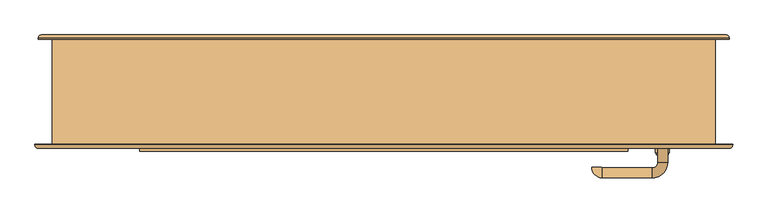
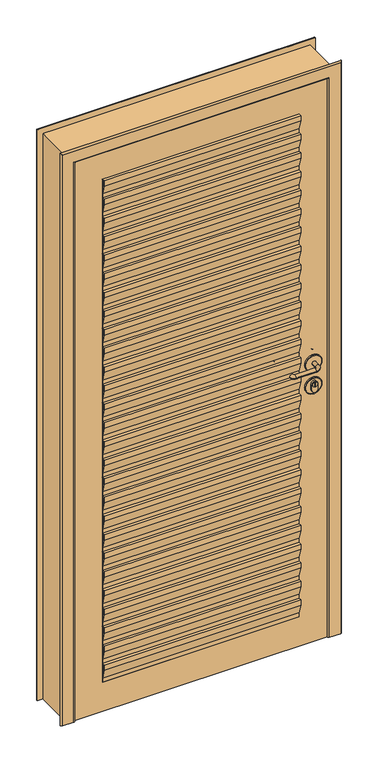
"""IFC4 building model written with IfcOpenShell, lengths in millimetres: door geometry, PORTA VENEZIANA PARAMÉTRICA : .VENEZIANA 90X210 2."""

from ifc_helpers import new_model, si_unit, point, frame, origin, place, context, project, spatial, polyline, circle_curve, ellipse_curve, trimmed, outline, extrude, faceted_brep, source, transform, mapped, element, save
from ifc_brep_helpers import plane_surface, cylinder_surface, revolved_surface, advanced_brep


def door_ed2cd844(model_context):
    return source(origin(), model_context, "Body", "SolidModel", [
        extrude(outline(polyline([(-75.0, 1945.0), (-85.0, 1980.0), (-85.0, 2000.0), (-74.0, 2000.0), (-74.0, 1999.0), (-84.0, 1999.0), (-84.0, 1980.1400549), (-74.0, 1945.1400549), (-74.0, 1930.0), (-75.0, 1930.0), (-75.0, 1945.0)])), frame((-350.0, 0.0, 0.0), z_axis=(1.0, 0.0, 0.0), x_axis=(0.0, 1.0, 0.0)), (0.0, 0.0, 1.0), 700.0),
        extrude(outline(polyline([(-75.0, 1875.0), (-85.0, 1910.0), (-85.0, 1930.0), (-74.0, 1930.0), (-74.0, 1929.0), (-84.0, 1929.0), (-84.0, 1910.1400549), (-74.0, 1875.1400549), (-74.0, 1860.0), (-75.0, 1860.0), (-75.0, 1875.0)])), frame((-350.0, 0.0, 0.0), z_axis=(1.0, 0.0, 0.0), x_axis=(0.0, 1.0, 0.0)), (0.0, 0.0, 1.0), 700.0),
        extrude(outline(polyline([(-75.0, 1805.0), (-85.0, 1840.0), (-85.0, 1860.0), (-74.0, 1860.0), (-74.0, 1859.0), (-84.0, 1859.0), (-84.0, 1840.1400549), (-74.0, 1805.1400549), (-74.0, 1790.0), (-75.0, 1790.0), (-75.0, 1805.0)])), frame((-350.0, 0.0, 0.0), z_axis=(1.0, 0.0, 0.0), x_axis=(0.0, 1.0, 0.0)), (0.0, 0.0, 1.0), 700.0),
        extrude(outline(polyline([(-75.0, 1735.0), (-85.0, 1770.0), (-85.0, 1790.0), (-74.0, 1790.0), (-74.0, 1789.0), (-84.0, 1789.0), (-84.0, 1770.1400549), (-74.0, 1735.1400549), (-74.0, 1720.0), (-75.0, 1720.0), (-75.0, 1735.0)])), frame((-350.0, 0.0, 0.0), z_axis=(1.0, 0.0, 0.0), x_axis=(0.0, 1.0, 0.0)), (0.0, 0.0, 1.0), 700.0),
        extrude(outline(polyline([(-75.0, 1665.0), (-85.0, 1700.0), (-85.0, 1720.0), (-74.0, 1720.0), (-74.0, 1719.0), (-84.0, 1719.0), (-84.0, 1700.1400549), (-74.0, 1665.1400549), (-74.0, 1650.0), (-75.0, 1650.0), (-75.0, 1665.0)])), frame((-350.0, 0.0, 0.0), z_axis=(1.0, 0.0, 0.0), x_axis=(0.0, 1.0, 0.0)), (0.0, 0.0, 1.0), 700.0),
        extrude(outline(polyline([(-75.0, 1595.0), (-85.0, 1630.0), (-85.0, 1650.0), (-74.0, 1650.0), (-74.0, 1649.0), (-84.0, 1649.0), (-84.0, 1630.1400549), (-74.0, 1595.1400549), (-74.0, 1580.0), (-75.0, 1580.0), (-75.0, 1595.0)])), frame((-350.0, 0.0, 0.0), z_axis=(1.0, 0.0, 0.0), x_axis=(0.0, 1.0, 0.0)), (0.0, 0.0, 1.0), 700.0),
        extrude(outline(polyline([(-75.0, 1525.0), (-85.0, 1560.0), (-85.0, 1580.0), (-74.0, 1580.0), (-74.0, 1579.0), (-84.0, 1579.0), (-84.0, 1560.1400549), (-74.0, 1525.1400549), (-74.0, 1510.0), (-75.0, 1510.0), (-75.0, 1525.0)])), frame((-350.0, 0.0, 0.0), z_axis=(1.0, 0.0, 0.0), x_axis=(0.0, 1.0, 0.0)), (0.0, 0.0, 1.0), 700.0),
        extrude(outline(polyline([(-75.0, 1455.0), (-85.0, 1490.0), (-85.0, 1510.0), (-74.0, 1510.0), (-74.0, 1509.0), (-84.0, 1509.0), (-84.0, 1490.1400549), (-74.0, 1455.1400549), (-74.0, 1440.0), (-75.0, 1440.0), (-75.0, 1455.0)])), frame((-350.0, 0.0, 0.0), z_axis=(1.0, 0.0, 0.0), x_axis=(0.0, 1.0, 0.0)), (0.0, 0.0, 1.0), 700.0),
        extrude(outline(polyline([(-75.0, 1385.0), (-85.0, 1420.0), (-85.0, 1440.0), (-74.0, 1440.0), (-74.0, 1439.0), (-84.0, 1439.0), (-84.0, 1420.1400549), (-74.0, 1385.1400549), (-74.0, 1370.0), (-75.0, 1370.0), (-75.0, 1385.0)])), frame((-350.0, 0.0, 0.0), z_axis=(1.0, 0.0, 0.0), x_axis=(0.0, 1.0, 0.0)), (0.0, 0.0, 1.0), 700.0),
        extrude(outline(polyline([(-75.0, 1315.0), (-85.0, 1350.0), (-85.0, 1370.0), (-74.0, 1370.0), (-74.0, 1369.0), (-84.0, 1369.0), (-84.0, 1350.1400549), (-74.0, 1315.1400549), (-74.0, 1300.0), (-75.0, 1300.0), (-75.0, 1315.0)])), frame((-350.0, 0.0, 0.0), z_axis=(1.0, 0.0, 0.0), x_axis=(0.0, 1.0, 0.0)), (0.0, 0.0, 1.0), 700.0),
        extrude(outline(polyline([(-75.0, 1245.0), (-85.0, 1280.0), (-85.0, 1300.0), (-74.0, 1300.0), (-74.0, 1299.0), (-84.0, 1299.0), (-84.0, 1280.1400549), (-74.0, 1245.1400549), (-74.0, 1230.0), (-75.0, 1230.0), (-75.0, 1245.0)])), frame((-350.0, 0.0, 0.0), z_axis=(1.0, 0.0, 0.0), x_axis=(0.0, 1.0, 0.0)), (0.0, 0.0, 1.0), 700.0),
        extrude(outline(polyline([(-75.0, 1175.0), (-85.0, 1210.0), (-85.0, 1230.0), (-74.0, 1230.0), (-74.0, 1229.0), (-84.0, 1229.0), (-84.0, 1210.1400549), (-74.0, 1175.1400549), (-74.0, 1160.0), (-75.0, 1160.0), (-75.0, 1175.0)])), frame((-350.0, 0.0, 0.0), z_axis=(1.0, 0.0, 0.0), x_axis=(0.0, 1.0, 0.0)), (0.0, 0.0, 1.0), 700.0),
        extrude(outline(polyline([(-75.0, 1105.0), (-85.0, 1140.0), (-85.0, 1160.0), (-74.0, 1160.0), (-74.0, 1159.0), (-84.0, 1159.0), (-84.0, 1140.1400549), (-74.0, 1105.1400549), (-74.0, 1090.0), (-75.0, 1090.0), (-75.0, 1105.0)])), frame((-350.0, 0.0, 0.0), z_axis=(1.0, 0.0, 0.0), x_axis=(0.0, 1.0, 0.0)), (0.0, 0.0, 1.0), 700.0),
        extrude(outline(polyline([(-75.0, 1035.0), (-85.0, 1070.0), (-85.0, 1090.0), (-74.0, 1090.0), (-74.0, 1089.0), (-84.0, 1089.0), (-84.0, 1070.1400549), (-74.0, 1035.1400549), (-74.0, 1020.0), (-75.0, 1020.0), (-75.0, 1035.0)])), frame((-350.0, 0.0, 0.0), z_axis=(1.0, 0.0, 0.0), x_axis=(0.0, 1.0, 0.0)), (0.0, 0.0, 1.0), 700.0),
        extrude(outline(polyline([(-75.0, 965.0), (-85.0, 1000.0), (-85.0, 1020.0), (-74.0, 1020.0), (-74.0, 1019.0), (-84.0, 1019.0), (-84.0, 1000.1400549), (-74.0, 965.1400549), (-74.0, 950.0), (-75.0, 950.0), (-75.0, 965.0)])), frame((-350.0, 0.0, 0.0), z_axis=(1.0, 0.0, 0.0), x_axis=(0.0, 1.0, 0.0)), (0.0, 0.0, 1.0), 700.0),
        extrude(outline(polyline([(-75.0, 895.0), (-85.0, 930.0), (-85.0, 950.0), (-74.0, 950.0), (-74.0, 949.0), (-84.0, 949.0), (-84.0, 930.1400549), (-74.0, 895.1400549), (-74.0, 880.0), (-75.0, 880.0), (-75.0, 895.0)])), frame((-350.0, 0.0, 0.0), z_axis=(1.0, 0.0, 0.0), x_axis=(0.0, 1.0, 0.0)), (0.0, 0.0, 1.0), 700.0),
        extrude(outline(polyline([(-75.0, 825.0), (-85.0, 860.0), (-85.0, 880.0), (-74.0, 880.0), (-74.0, 879.0), (-84.0, 879.0), (-84.0, 860.1400549), (-74.0, 825.1400549), (-74.0, 810.0), (-75.0, 810.0), (-75.0, 825.0)])), frame((-350.0, 0.0, 0.0), z_axis=(1.0, 0.0, 0.0), x_axis=(0.0, 1.0, 0.0)), (0.0, 0.0, 1.0), 700.0),
        extrude(outline(polyline([(-75.0, 755.0), (-85.0, 790.0), (-85.0, 810.0), (-74.0, 810.0), (-74.0, 809.0), (-84.0, 809.0), (-84.0, 790.1400549), (-74.0, 755.1400549), (-74.0, 740.0), (-75.0, 740.0), (-75.0, 755.0)])), frame((-350.0, 0.0, 0.0), z_axis=(1.0, 0.0, 0.0), x_axis=(0.0, 1.0, 0.0)), (0.0, 0.0, 1.0), 700.0),
        extrude(outline(polyline([(-75.0, 685.0), (-85.0, 720.0), (-85.0, 740.0), (-74.0, 740.0), (-74.0, 739.0), (-84.0, 739.0), (-84.0, 720.1400549), (-74.0, 685.1400549), (-74.0, 670.0), (-75.0, 670.0), (-75.0, 685.0)])), frame((-350.0, 0.0, 0.0), z_axis=(1.0, 0.0, 0.0), x_axis=(0.0, 1.0, 0.0)), (0.0, 0.0, 1.0), 700.0),
        extrude(outline(polyline([(-75.0, 615.0), (-85.0, 650.0), (-85.0, 670.0), (-74.0, 670.0), (-74.0, 669.0), (-84.0, 669.0), (-84.0, 650.1400549), (-74.0, 615.1400549), (-74.0, 600.0), (-75.0, 600.0), (-75.0, 615.0)])), frame((-350.0, 0.0, 0.0), z_axis=(1.0, 0.0, 0.0), x_axis=(0.0, 1.0, 0.0)), (0.0, 0.0, 1.0), 700.0),
        extrude(outline(polyline([(-75.0, 545.0), (-85.0, 580.0), (-85.0, 600.0), (-74.0, 600.0), (-74.0, 599.0), (-84.0, 599.0), (-84.0, 580.1400549), (-74.0, 545.1400549), (-74.0, 530.0), (-75.0, 530.0), (-75.0, 545.0)])), frame((-350.0, 0.0, 0.0), z_axis=(1.0, 0.0, 0.0), x_axis=(0.0, 1.0, 0.0)), (0.0, 0.0, 1.0), 700.0),
        extrude(outline(polyline([(-75.0, 475.0), (-85.0, 510.0), (-85.0, 530.0), (-74.0, 530.0), (-74.0, 529.0), (-84.0, 529.0), (-84.0, 510.1400549), (-74.0, 475.1400549), (-74.0, 460.0), (-75.0, 460.0), (-75.0, 475.0)])), frame((-350.0, 0.0, 0.0), z_axis=(1.0, 0.0, 0.0), x_axis=(0.0, 1.0, 0.0)), (0.0, 0.0, 1.0), 700.0),
        extrude(outline(polyline([(-75.0, 405.0), (-85.0, 440.0), (-85.0, 460.0), (-74.0, 460.0), (-74.0, 459.0), (-84.0, 459.0), (-84.0, 440.1400549), (-74.0, 405.1400549), (-74.0, 390.0), (-75.0, 390.0), (-75.0, 405.0)])), frame((-350.0, 0.0, 0.0), z_axis=(1.0, 0.0, 0.0), x_axis=(0.0, 1.0, 0.0)), (0.0, 0.0, 1.0), 700.0),
        extrude(outline(polyline([(-75.0, 335.0), (-85.0, 370.0), (-85.0, 390.0), (-74.0, 390.0), (-74.0, 389.0), (-84.0, 389.0), (-84.0, 370.1400549), (-74.0, 335.1400549), (-74.0, 320.0), (-75.0, 320.0), (-75.0, 335.0)])), frame((-350.0, 0.0, 0.0), z_axis=(1.0, 0.0, 0.0), x_axis=(0.0, 1.0, 0.0)), (0.0, 0.0, 1.0), 700.0),
        extrude(outline(polyline([(-75.0, 265.0), (-85.0, 300.0), (-85.0, 320.0), (-74.0, 320.0), (-74.0, 319.0), (-84.0, 319.0), (-84.0, 300.1400549), (-74.0, 265.1400549), (-74.0, 250.0), (-75.0, 250.0), (-75.0, 265.0)])), frame((-350.0, 0.0, 0.0), z_axis=(1.0, 0.0, 0.0), x_axis=(0.0, 1.0, 0.0)), (0.0, 0.0, 1.0), 700.0),
        extrude(outline(polyline([(-75.0, 195.0), (-85.0, 230.0), (-85.0, 250.0), (-74.0, 250.0), (-74.0, 249.0), (-84.0, 249.0), (-84.0, 230.1400549), (-74.0, 195.1400549), (-74.0, 180.0), (-75.0, 180.0), (-75.0, 195.0)])), frame((-350.0, 0.0, 0.0), z_axis=(1.0, 0.0, 0.0), x_axis=(0.0, 1.0, 0.0)), (0.0, 0.0, 1.0), 700.0),
        extrude(outline(polyline([(-75.0, 125.0), (-85.0, 160.0), (-85.0, 180.0), (-74.0, 180.0), (-74.0, 179.0), (-84.0, 179.0), (-84.0, 160.1400549), (-74.0, 125.1400549), (-74.0, 110.0), (-75.0, 110.0), (-75.0, 125.0)])), frame((-350.0, 0.0, 0.0), z_axis=(1.0, 0.0, 0.0), x_axis=(0.0, 1.0, 0.0)), (0.0, 0.0, 1.0), 700.0),
        advanced_brep(
        [(393.0, -19.0, 1050.0), (393.0, -39.0, 1050.0), (407.0, -39.0, 1050.0), (407.0, -19.0, 1050.0), (385.0, 3.0, 1050.0), (385.0, -11.0, 1050.0), (313.0, 3.0, 1050.0), (313.0, -11.0, 1050.0), (312.0, -12.0, 1050.0), (298.0, -12.0, 1050.0), (371.0897225, -39.0, 1049.3126953), (427.0897225, -39.0, 1049.3126953), (429.0897225, -45.0, 1049.3126953), (369.0897225, -45.0, 1049.3126953), (429.0897225, -41.0, 1049.3126953), (369.0897225, -41.0, 1049.3126953)],
        [
            (0, 1),
            (1, 2, circle_curve(frame((400.0, -39.0, 1050.0), z_axis=(0.0, 1.0, 0.0), x_axis=(1.0, 0.0, 0.0)), 7.0)),
            (2, 3),
            (3, 0, circle_curve(frame((400.0, -19.0, 1050.0), z_axis=(0.0, -1.0, 0.0), x_axis=(1.0, 0.0, 0.0)), 7.0)),
            (2, 1, circle_curve(frame((400.0, -39.0, 1050.0), z_axis=(0.0, 1.0, 0.0), x_axis=(1.0, 0.0, 0.0)), 7.0)),
            (0, 3, circle_curve(frame((400.0, -19.0, 1050.0), z_axis=(0.0, -1.0, 0.0), x_axis=(1.0, 0.0, 0.0)), 7.0)),
            (3, 4, circle_curve(frame((385.0, -19.0, 1050.0), z_axis=(0.0, 0.0, 1.0), x_axis=(1.0, 0.0, 0.0)), 22.0)),
            (4, 5, circle_curve(frame((385.0, -4.0, 1050.0), z_axis=(1.0, 0.0, 0.0), x_axis=(0.0, 1.0, 0.0)), 7.0)),
            (5, 0, circle_curve(frame((385.0, -19.0, 1050.0), z_axis=(0.0, 0.0, -1.0), x_axis=(1.0, 0.0, 0.0)), 8.0)),
            (5, 4, circle_curve(frame((385.0, -4.0, 1050.0), z_axis=(1.0, 0.0, 0.0), x_axis=(0.0, 1.0, 0.0)), 7.0)),
            (4, 6),
            (6, 7, circle_curve(frame((313.0, -4.0, 1050.0), z_axis=(1.0, 0.0, 0.0), x_axis=(0.0, 1.0, 0.0)), 7.0)),
            (7, 5),
            (7, 6, circle_curve(frame((313.0, -4.0, 1050.0), z_axis=(1.0, 0.0, 0.0), x_axis=(0.0, 1.0, 0.0)), 7.0)),
            (8, 9, circle_curve(frame((305.0, -12.0, 1050.0), z_axis=(0.0, -1.0, 0.0), x_axis=(-1.0, 0.0, 0.0)), 7.0)),
            (9, 8, circle_curve(frame((305.0, -12.0, 1050.0), z_axis=(0.0, -1.0, 0.0), x_axis=(-1.0, 0.0, 0.0)), 7.0)),
            (6, 9, circle_curve(frame((313.0, -12.0, 1050.0), z_axis=(0.0, 0.0, 1.0), x_axis=(0.0, 1.0, 0.0)), 15.0)),
            (8, 7, circle_curve(frame((313.0, -12.0, 1050.0), z_axis=(0.0, 0.0, -1.0), x_axis=(0.0, 1.0, 0.0)), 1.0)),
            (10, 11, circle_curve(frame((399.0897225, -39.0, 1049.3126953), z_axis=(0.0, 1.0, 0.0), x_axis=(-1.0, 0.0, 0.0)), 28.0)),
            (11, 10, circle_curve(frame((399.0897225, -39.0, 1049.3126953), z_axis=(0.0, 1.0, 0.0), x_axis=(1.0, 0.0, 0.0)), 28.0)),
            (12, 13, circle_curve(frame((399.0897225, -45.0, 1049.3126953), z_axis=(0.0, -1.0, 0.0), x_axis=(-1.0, 0.0, 0.0)), 30.0)),
            (13, 12, circle_curve(frame((399.0897225, -45.0, 1049.3126953), z_axis=(0.0, -1.0, 0.0), x_axis=(-1.0, 0.0, 0.0)), 30.0)),
            (12, 14),
            (14, 15, circle_curve(frame((399.0897225, -41.0, 1049.3126953), z_axis=(0.0, -1.0, 0.0), x_axis=(-1.0, 0.0, 0.0)), 30.0)),
            (15, 13),
            (15, 14, circle_curve(frame((399.0897225, -41.0, 1049.3126953), z_axis=(0.0, -1.0, 0.0), x_axis=(-1.0, 0.0, 0.0)), 30.0)),
            (11, 14, circle_curve(frame((427.0897225, -41.0, 1049.3126953), z_axis=(0.0, 0.0, -1.0), x_axis=(1.0, 0.0, 0.0)), 2.0)),
            (15, 10, circle_curve(frame((371.0897225, -41.0, 1049.3126953), z_axis=(0.0, 0.0, -1.0), x_axis=(-1.0, 0.0, 0.0)), 2.0)),
        ],
        [
            cylinder_surface(frame((400.0, -45.0, 1050.0), z_axis=(0.0, -1.0, 0.0), x_axis=(1.0, 0.0, 0.0)), 7.0),
            revolved_surface(trimmed(ellipse_curve(frame((400.0, -19.0, 1050.0), z_axis=(0.0, 1.0, 0.0), x_axis=(1.0, 0.0, 0.0)), 7.0, 7.0), [point((393.0, -19.0, 1050.0))], [point((407.0, -19.0, 1050.0))], True, "CARTESIAN"), (385.0, -19.0, 1050.0), (0.0, 0.0, -1.0)),
            revolved_surface(trimmed(ellipse_curve(frame((400.0, -19.0, 1050.0), z_axis=(0.0, 1.0, 0.0), x_axis=(1.0, 0.0, 0.0)), 7.0, 7.0), [point((407.0, -19.0, 1050.0))], [point((393.0, -19.0, 1050.0))], True, "CARTESIAN"), (385.0, -19.0, 1050.0), (0.0, 0.0, -1.0)),
            cylinder_surface(frame((385.0, -4.0, 1050.0), z_axis=(1.0, 0.0, 0.0), x_axis=(0.0, 1.0, 0.0)), 7.0),
            plane_surface(frame((305.0, -12.0, 1050.0), z_axis=(0.0, -1.0, 0.0), x_axis=(0.0, 0.0, 1.0))),
            revolved_surface(trimmed(ellipse_curve(frame((313.0, -4.0, 1050.0), z_axis=(-1.0, 0.0, 0.0), x_axis=(0.0, 1.0, 0.0)), 7.0, 7.0), [point((313.0, -11.0, 1050.0))], [point((313.0, 3.0, 1050.0))], True, "CARTESIAN"), (313.0, -12.0, 1050.0), (0.0, 0.0, -1.0)),
            revolved_surface(trimmed(ellipse_curve(frame((313.0, -4.0, 1050.0), z_axis=(-1.0, 0.0, 0.0), x_axis=(0.0, 1.0, 0.0)), 7.0, 7.0), [point((313.0, 3.0, 1050.0))], [point((313.0, -11.0, 1050.0))], True, "CARTESIAN"), (313.0, -12.0, 1050.0), (0.0, 0.0, -1.0)),
            plane_surface(frame((369.0897225, -39.0, 1049.3126953), z_axis=(0.0, 1.0, 0.0), x_axis=(0.0, 0.0, -1.0))),
            plane_surface(frame((369.0897225, -45.0, 1049.3126953), z_axis=(0.0, -1.0, 0.0), x_axis=(0.0, 0.0, 1.0))),
            cylinder_surface(frame((399.0897225, -45.0, 1049.3126953), z_axis=(0.0, 1.0, 0.0), x_axis=(-1.0, 0.0, 0.0)), 30.0),
            revolved_surface(trimmed(ellipse_curve(frame((427.0897225, -41.0, 1049.3126953), z_axis=(0.0, 0.0, -1.0), x_axis=(1.0, 0.0, 0.0)), 2.0, 2.0), [point((427.0897225, -39.0, 1049.3126953))], [point((429.0897225, -41.0, 1049.3126953))], True, "CARTESIAN"), (399.0897225, -45.0, 1049.3126953), (0.0, -1.0, 0.0)),
            revolved_surface(trimmed(ellipse_curve(frame((371.0897225, -41.0, 1049.3126953), z_axis=(0.0, 0.0, 1.0), x_axis=(-1.0, 0.0, 0.0)), 2.0, 2.0), [point((371.0897225, -39.0, 1049.3126953))], [point((369.0897225, -41.0, 1049.3126953))], True, "CARTESIAN"), (399.0897225, -45.0, 1049.3126953), (0.0, -1.0, 0.0)),
        ],
        [
            (0, [[1, 2, 3, 4]]),
            (0, [[-3, 5, -1, 6]]),
            (1, [[7, 8, 9, -4]]),
            (2, [[-9, 10, -7, -6]]),
            (3, [[11, 12, 13, -8]]),
            (3, [[-13, 14, -11, -10]]),
            (4, [[15, 16]]),
            (5, [[17, -15, 18, -12]]),
            (6, [[-18, -16, -17, -14]]),
            (7, [[19, 20], [-5, -2]]),
            (8, [[21, 22]]),
            (9, [[23, 24, 25, -21]]),
            (9, [[-25, 26, -23, -22]]),
            (10, [[-20, 27, -26, 28]]),
            (11, [[-24, -27, -19, -28]]),
        ],
    ),
        advanced_brep(
        [(371.0897225, -39.0, 964.9710055), (427.0897225, -39.0, 964.9710055), (389.0897225, -39.0, 974.9710055), (389.0897225, -39.0, 954.9710055), (409.0897225, -39.0, 954.9710055), (409.0897225, -39.0, 974.9710055), (398.0897225, -39.0, 980.9710055), (400.0897225, -39.0, 980.9710055), (400.0897225, -39.0, 968.9710055), (398.0897225, -39.0, 968.9710055), (429.0897225, -45.0, 964.9710055), (369.0897225, -45.0, 964.9710055), (369.0897225, -41.0, 964.9710055), (429.0897225, -41.0, 964.9710055), (409.0897225, -32.5, 974.9710055), (409.0897225, -32.5, 954.9710055), (389.0897225, -32.5, 954.9710055), (389.0897225, -32.5, 974.9710055), (390.5897225, -32.5, 974.9710055), (407.5897225, -32.5, 974.9710055), (398.0897225, -30.0, 968.9710055), (398.0897225, -30.0, 980.9710055), (400.0897225, -30.0, 980.9710055), (400.0897225, -30.0, 968.9710055), (407.5897225, -30.0, 974.9710055), (390.5897225, -30.0, 974.9710055)],
        [
            (0, 1, circle_curve(frame((399.0897225, -39.0, 964.9710055), z_axis=(0.0, 1.0, 0.0), x_axis=(-1.0, 0.0, 0.0)), 28.0)),
            (1, 0, circle_curve(frame((399.0897225, -39.0, 964.9710055), z_axis=(0.0, 1.0, 0.0), x_axis=(1.0, 0.0, 0.0)), 28.0)),
            (2, 3),
            (3, 4, circle_curve(frame((399.0897225, -39.0, 954.9710055), z_axis=(0.0, -1.0, 0.0), x_axis=(-1.0, 0.0, 0.0)), 10.0)),
            (4, 5),
            (5, 2, circle_curve(frame((399.0897225, -39.0, 974.9710055), z_axis=(0.0, -1.0, 0.0), x_axis=(-1.0, 0.0, 0.0)), 10.0)),
            (6, 7),
            (7, 8),
            (8, 9),
            (9, 6),
            (10, 11, circle_curve(frame((399.0897225, -45.0, 964.9710055), z_axis=(0.0, -1.0, 0.0), x_axis=(-1.0, 0.0, 0.0)), 30.0)),
            (11, 10, circle_curve(frame((399.0897225, -45.0, 964.9710055), z_axis=(0.0, -1.0, 0.0), x_axis=(-1.0, 0.0, 0.0)), 30.0)),
            (11, 12),
            (12, 13, circle_curve(frame((399.0897225, -41.0, 964.9710055), z_axis=(0.0, -1.0, 0.0), x_axis=(-1.0, 0.0, 0.0)), 30.0)),
            (13, 10),
            (13, 12, circle_curve(frame((399.0897225, -41.0, 964.9710055), z_axis=(0.0, -1.0, 0.0), x_axis=(-1.0, 0.0, 0.0)), 30.0)),
            (1, 13, circle_curve(frame((427.0897225, -41.0, 964.9710055), z_axis=(0.0, 0.0, -1.0), x_axis=(1.0, 0.0, 0.0)), 2.0)),
            (12, 0, circle_curve(frame((371.0897225, -41.0, 964.9710055), z_axis=(0.0, 0.0, -1.0), x_axis=(-1.0, 0.0, 0.0)), 2.0)),
            (14, 15),
            (15, 16, circle_curve(frame((399.0897225, -32.5, 954.9710055), z_axis=(0.0, 1.0, 0.0), x_axis=(-1.0, 0.0, 0.0)), 10.0)),
            (16, 17),
            (17, 14, circle_curve(frame((399.0897225, -32.5, 974.9710055), z_axis=(0.0, 1.0, 0.0), x_axis=(-1.0, 0.0, 0.0)), 10.0)),
            (18, 19, circle_curve(frame((399.0897225, -32.5, 974.9710055), z_axis=(0.0, -1.0, 0.0), x_axis=(-1.0, 0.0, 0.0)), 8.5)),
            (19, 18, circle_curve(frame((399.0897225, -32.5, 974.9710055), z_axis=(0.0, -1.0, 0.0), x_axis=(-1.0, 0.0, 0.0)), 8.5)),
            (9, 20),
            (20, 21),
            (21, 6),
            (21, 22),
            (22, 7),
            (22, 23),
            (23, 8),
            (23, 20),
            (17, 2),
            (5, 14),
            (16, 3),
            (15, 4),
            (24, 25, circle_curve(frame((399.0897225, -30.0, 974.9710055), z_axis=(0.0, 1.0, 0.0), x_axis=(-1.0, 0.0, 0.0)), 8.5)),
            (25, 24, circle_curve(frame((399.0897225, -30.0, 974.9710055), z_axis=(0.0, 1.0, 0.0), x_axis=(-1.0, 0.0, 0.0)), 8.5)),
            (25, 18),
            (19, 24),
        ],
        [
            plane_surface(frame((369.0897225, -39.0, 964.9710055), z_axis=(0.0, 1.0, 0.0), x_axis=(0.0, 0.0, -1.0))),
            plane_surface(frame((369.0897225, -45.0, 964.9710055), z_axis=(0.0, -1.0, 0.0), x_axis=(0.0, 0.0, 1.0))),
            cylinder_surface(frame((399.0897225, -45.0, 964.9710055), z_axis=(0.0, 1.0, 0.0), x_axis=(-1.0, 0.0, 0.0)), 30.0),
            revolved_surface(trimmed(ellipse_curve(frame((427.0897225, -41.0, 964.9710055), z_axis=(0.0, 0.0, -1.0), x_axis=(1.0, 0.0, 0.0)), 2.0, 2.0), [point((427.0897225, -39.0, 964.9710055))], [point((429.0897225, -41.0, 964.9710055))], True, "CARTESIAN"), (399.0897225, -45.0, 964.9710055), (0.0, -1.0, 0.0)),
            revolved_surface(trimmed(ellipse_curve(frame((371.0897225, -41.0, 964.9710055), z_axis=(0.0, 0.0, 1.0), x_axis=(-1.0, 0.0, 0.0)), 2.0, 2.0), [point((371.0897225, -39.0, 964.9710055))], [point((369.0897225, -41.0, 964.9710055))], True, "CARTESIAN"), (399.0897225, -45.0, 964.9710055), (0.0, -1.0, 0.0)),
            plane_surface(frame((398.0897225, -32.5, 980.9710055), z_axis=(0.0, 1.0, 0.0), x_axis=(0.0, 0.0, 1.0))),
            plane_surface(frame((398.0897225, -32.5, 968.9710055), z_axis=(1.0, 0.0, 0.0), x_axis=(0.0, -1.0, 0.0))),
            plane_surface(frame((398.0897225, -32.5, 980.9710055), z_axis=(0.0, 0.0, -1.0), x_axis=(0.0, -1.0, 0.0))),
            plane_surface(frame((400.0897225, -32.5, 980.9710055), z_axis=(-1.0, 0.0, 0.0), x_axis=(0.0, -1.0, 0.0))),
            plane_surface(frame((400.0897225, -32.5, 968.9710055), z_axis=(0.0, 0.0, 1.0), x_axis=(0.0, -1.0, 0.0))),
            cylinder_surface(frame((399.0897225, -45.0, 974.9710055), z_axis=(0.0, 1.0, 0.0), x_axis=(-1.0, 0.0, 0.0)), 10.0),
            plane_surface(frame((389.0897225, -32.5, 974.9710055), z_axis=(-1.0, 0.0, 0.0), x_axis=(0.0, -1.0, 0.0))),
            cylinder_surface(frame((399.0897225, -45.0, 954.9710055), z_axis=(0.0, 1.0, 0.0), x_axis=(-1.0, 0.0, 0.0)), 10.0),
            plane_surface(frame((409.0897225, -32.5, 954.9710055), z_axis=(1.0, 0.0, 0.0), x_axis=(0.0, -1.0, 0.0))),
            plane_surface(frame((398.0897225, -30.0, 980.9710055), z_axis=(0.0, 1.0, 0.0), x_axis=(0.0, 0.0, 1.0))),
            cylinder_surface(frame((399.0897225, -45.0, 974.9710055), z_axis=(0.0, 1.0, 0.0), x_axis=(-1.0, 0.0, 0.0)), 8.5),
        ],
        [
            (0, [[1, 2], [3, 4, 5, 6]]),
            (0, [[7, 8, 9, 10]]),
            (1, [[11, 12]]),
            (2, [[13, 14, 15, -12]]),
            (2, [[-15, 16, -13, -11]]),
            (3, [[-2, 17, -14, 18]]),
            (4, [[-16, -17, -1, -18]]),
            (5, [[19, 20, 21, 22], [23, 24]]),
            (6, [[25, 26, 27, -10]]),
            (7, [[28, 29, -7, -27]]),
            (8, [[30, 31, -8, -29]]),
            (9, [[-9, -31, 32, -25]]),
            (10, [[33, -6, 34, -22]]),
            (11, [[35, -3, -33, -21]]),
            (12, [[36, -4, -35, -20]]),
            (13, [[-34, -5, -36, -19]]),
            (14, [[37, 38], [-32, -30, -28, -26]]),
            (15, [[39, -24, 40, -38]]),
            (15, [[-40, -23, -39, -37]]),
        ],
    ),
        advanced_brep(
        [(393.0, -101.0, 1050.0), (407.0, -101.0, 1050.0), (407.0, -81.0, 1050.0), (393.0, -81.0, 1050.0), (385.0, -109.0, 1050.0), (385.0, -123.0, 1050.0), (313.0, -109.0, 1050.0), (313.0, -123.0, 1050.0), (312.0, -108.0, 1050.0), (298.0, -108.0, 1050.0), (371.0897225, -81.0, 1049.3126953), (427.0897225, -81.0, 1049.3126953), (429.0897225, -75.0, 1049.3126953), (369.0897225, -75.0, 1049.3126953), (369.0897225, -79.0, 1049.3126953), (429.0897225, -79.0, 1049.3126953)],
        [
            (0, 1, circle_curve(frame((400.0, -101.0, 1050.0), z_axis=(0.0, 1.0, 0.0), x_axis=(1.0, 0.0, 0.0)), 7.0)),
            (1, 2),
            (2, 3, circle_curve(frame((400.0, -81.0, 1050.0), z_axis=(0.0, -1.0, 0.0), x_axis=(1.0, 0.0, 0.0)), 7.0)),
            (3, 0),
            (1, 0, circle_curve(frame((400.0, -101.0, 1050.0), z_axis=(0.0, 1.0, 0.0), x_axis=(1.0, 0.0, 0.0)), 7.0)),
            (3, 2, circle_curve(frame((400.0, -81.0, 1050.0), z_axis=(0.0, -1.0, 0.0), x_axis=(1.0, 0.0, 0.0)), 7.0)),
            (0, 4, circle_curve(frame((385.0, -101.0, 1050.0), z_axis=(0.0, 0.0, -1.0), x_axis=(1.0, 0.0, 0.0)), 8.0)),
            (4, 5, circle_curve(frame((385.0, -116.0, 1050.0), z_axis=(1.0, 0.0, 0.0), x_axis=(0.0, -1.0, 0.0)), 7.0)),
            (5, 1, circle_curve(frame((385.0, -101.0, 1050.0), z_axis=(0.0, 0.0, 1.0), x_axis=(1.0, 0.0, 0.0)), 22.0)),
            (5, 4, circle_curve(frame((385.0, -116.0, 1050.0), z_axis=(1.0, 0.0, 0.0), x_axis=(0.0, -1.0, 0.0)), 7.0)),
            (4, 6),
            (6, 7, circle_curve(frame((313.0, -116.0, 1050.0), z_axis=(1.0, 0.0, 0.0), x_axis=(0.0, -1.0, 0.0)), 7.0)),
            (7, 5),
            (7, 6, circle_curve(frame((313.0, -116.0, 1050.0), z_axis=(1.0, 0.0, 0.0), x_axis=(0.0, -1.0, 0.0)), 7.0)),
            (8, 9, circle_curve(frame((305.0, -108.0, 1050.0), z_axis=(0.0, 1.0, 0.0), x_axis=(-1.0, 0.0, 0.0)), 7.0)),
            (9, 8, circle_curve(frame((305.0, -108.0, 1050.0), z_axis=(0.0, 1.0, 0.0), x_axis=(-1.0, 0.0, 0.0)), 7.0)),
            (6, 8, circle_curve(frame((313.0, -108.0, 1050.0), z_axis=(0.0, 0.0, -1.0), x_axis=(0.0, -1.0, 0.0)), 1.0)),
            (9, 7, circle_curve(frame((313.0, -108.0, 1050.0), z_axis=(0.0, 0.0, 1.0), x_axis=(0.0, -1.0, 0.0)), 15.0)),
            (10, 11, circle_curve(frame((399.0897225, -81.0, 1049.3126953), z_axis=(0.0, -1.0, 0.0), x_axis=(1.0, 0.0, 0.0)), 28.0)),
            (11, 10, circle_curve(frame((399.0897225, -81.0, 1049.3126953), z_axis=(0.0, -1.0, 0.0), x_axis=(-1.0, 0.0, 0.0)), 28.0)),
            (12, 13, circle_curve(frame((399.0897225, -75.0, 1049.3126953), z_axis=(0.0, 1.0, 0.0), x_axis=(-1.0, 0.0, 0.0)), 30.0)),
            (13, 12, circle_curve(frame((399.0897225, -75.0, 1049.3126953), z_axis=(0.0, 1.0, 0.0), x_axis=(-1.0, 0.0, 0.0)), 30.0)),
            (13, 14),
            (14, 15, circle_curve(frame((399.0897225, -79.0, 1049.3126953), z_axis=(0.0, 1.0, 0.0), x_axis=(-1.0, 0.0, 0.0)), 30.0)),
            (15, 12),
            (15, 14, circle_curve(frame((399.0897225, -79.0, 1049.3126953), z_axis=(0.0, 1.0, 0.0), x_axis=(-1.0, 0.0, 0.0)), 30.0)),
            (10, 14, circle_curve(frame((371.0897225, -79.0, 1049.3126953), z_axis=(0.0, 0.0, -1.0), x_axis=(-1.0, 0.0, 0.0)), 2.0)),
            (15, 11, circle_curve(frame((427.0897225, -79.0, 1049.3126953), z_axis=(0.0, 0.0, -1.0), x_axis=(1.0, 0.0, 0.0)), 2.0)),
        ],
        [
            cylinder_surface(frame((400.0, -75.0, 1050.0), z_axis=(0.0, 1.0, 0.0), x_axis=(1.0, 0.0, 0.0)), 7.0),
            revolved_surface(trimmed(ellipse_curve(frame((400.0, -101.0, 1050.0), z_axis=(0.0, 1.0, 0.0), x_axis=(1.0, 0.0, 0.0)), 7.0, 7.0), [point((393.0, -101.0, 1050.0))], [point((407.0, -101.0, 1050.0))], True, "CARTESIAN"), (385.0, -101.0, 1050.0), (0.0, 0.0, -1.0)),
            revolved_surface(trimmed(ellipse_curve(frame((400.0, -101.0, 1050.0), z_axis=(0.0, 1.0, 0.0), x_axis=(1.0, 0.0, 0.0)), 7.0, 7.0), [point((407.0, -101.0, 1050.0))], [point((393.0, -101.0, 1050.0))], True, "CARTESIAN"), (385.0, -101.0, 1050.0), (0.0, 0.0, -1.0)),
            cylinder_surface(frame((385.0, -116.0, 1050.0), z_axis=(1.0, 0.0, 0.0), x_axis=(0.0, -1.0, 0.0)), 7.0),
            plane_surface(frame((305.0, -108.0, 1050.0), z_axis=(0.0, 1.0, 0.0), x_axis=(0.0, 0.0, 1.0))),
            revolved_surface(trimmed(ellipse_curve(frame((313.0, -116.0, 1050.0), z_axis=(1.0, 0.0, 0.0), x_axis=(0.0, -1.0, 0.0)), 7.0, 7.0), [point((313.0, -109.0, 1050.0))], [point((313.0, -123.0, 1050.0))], True, "CARTESIAN"), (313.0, -108.0, 1050.0), (0.0, 0.0, -1.0)),
            revolved_surface(trimmed(ellipse_curve(frame((313.0, -116.0, 1050.0), z_axis=(1.0, 0.0, 0.0), x_axis=(0.0, -1.0, 0.0)), 7.0, 7.0), [point((313.0, -123.0, 1050.0))], [point((313.0, -109.0, 1050.0))], True, "CARTESIAN"), (313.0, -108.0, 1050.0), (0.0, 0.0, -1.0)),
            plane_surface(frame((369.0897225, -81.0, 1049.3126953), z_axis=(0.0, -1.0, 0.0), x_axis=(0.0, 0.0, -1.0))),
            plane_surface(frame((369.0897225, -75.0, 1049.3126953), z_axis=(0.0, 1.0, 0.0), x_axis=(0.0, 0.0, 1.0))),
            cylinder_surface(frame((399.0897225, -75.0, 1049.3126953), z_axis=(0.0, -1.0, 0.0), x_axis=(-1.0, 0.0, 0.0)), 30.0),
            revolved_surface(trimmed(ellipse_curve(frame((427.0897225, -79.0, 1049.3126953), z_axis=(0.0, 0.0, 1.0), x_axis=(1.0, 0.0, 0.0)), 2.0, 2.0), [point((427.0897225, -81.0, 1049.3126953))], [point((429.0897225, -79.0, 1049.3126953))], True, "CARTESIAN"), (399.0897225, -75.0, 1049.3126953), (0.0, 1.0, 0.0)),
            revolved_surface(trimmed(ellipse_curve(frame((371.0897225, -79.0, 1049.3126953), z_axis=(0.0, 0.0, -1.0), x_axis=(-1.0, 0.0, 0.0)), 2.0, 2.0), [point((371.0897225, -81.0, 1049.3126953))], [point((369.0897225, -79.0, 1049.3126953))], True, "CARTESIAN"), (399.0897225, -75.0, 1049.3126953), (0.0, 1.0, 0.0)),
        ],
        [
            (0, [[1, 2, 3, 4]]),
            (0, [[5, -4, 6, -2]]),
            (1, [[-1, 7, 8, 9]]),
            (2, [[-5, -9, 10, -7]]),
            (3, [[-8, 11, 12, 13]]),
            (3, [[-10, -13, 14, -11]]),
            (4, [[15, 16]]),
            (5, [[-12, 17, -16, 18]]),
            (6, [[-14, -18, -15, -17]]),
            (7, [[19, 20], [-3, -6]]),
            (8, [[21, 22]]),
            (9, [[-22, 23, 24, 25]]),
            (9, [[-21, -25, 26, -23]]),
            (10, [[27, -26, 28, -19]]),
            (11, [[-27, -20, -28, -24]]),
        ],
    ),
        advanced_brep(
        [(371.0897225, -81.0, 964.9710055), (427.0897225, -81.0, 964.9710055), (389.0897225, -81.0, 974.9710055), (409.0897225, -81.0, 974.9710055), (409.0897225, -81.0, 954.9710055), (389.0897225, -81.0, 954.9710055), (398.0897225, -81.0, 980.9710055), (398.0897225, -81.0, 968.9710055), (400.0897225, -81.0, 968.9710055), (400.0897225, -81.0, 980.9710055), (429.0897225, -75.0, 964.9710055), (369.0897225, -75.0, 964.9710055), (429.0897225, -79.0, 964.9710055), (369.0897225, -79.0, 964.9710055), (409.0897225, -87.5, 974.9710055), (389.0897225, -87.5, 974.9710055), (389.0897225, -87.5, 954.9710055), (409.0897225, -87.5, 954.9710055), (390.5897225, -87.5, 974.9710055), (407.5897225, -87.5, 974.9710055), (398.0897225, -90.0, 980.9710055), (398.0897225, -90.0, 968.9710055), (400.0897225, -90.0, 980.9710055), (400.0897225, -90.0, 968.9710055), (407.5897225, -90.0, 974.9710055), (390.5897225, -90.0, 974.9710055)],
        [
            (0, 1, circle_curve(frame((399.0897225, -81.0, 964.9710055), z_axis=(0.0, -1.0, 0.0), x_axis=(1.0, 0.0, 0.0)), 28.0)),
            (1, 0, circle_curve(frame((399.0897225, -81.0, 964.9710055), z_axis=(0.0, -1.0, 0.0), x_axis=(-1.0, 0.0, 0.0)), 28.0)),
            (2, 3, circle_curve(frame((399.0897225, -81.0, 974.9710055), z_axis=(0.0, 1.0, 0.0), x_axis=(-1.0, 0.0, 0.0)), 10.0)),
            (3, 4),
            (4, 5, circle_curve(frame((399.0897225, -81.0, 954.9710055), z_axis=(0.0, 1.0, 0.0), x_axis=(-1.0, 0.0, 0.0)), 10.0)),
            (5, 2),
            (6, 7),
            (7, 8),
            (8, 9),
            (9, 6),
            (10, 11, circle_curve(frame((399.0897225, -75.0, 964.9710055), z_axis=(0.0, 1.0, 0.0), x_axis=(-1.0, 0.0, 0.0)), 30.0)),
            (11, 10, circle_curve(frame((399.0897225, -75.0, 964.9710055), z_axis=(0.0, 1.0, 0.0), x_axis=(-1.0, 0.0, 0.0)), 30.0)),
            (10, 12),
            (12, 13, circle_curve(frame((399.0897225, -79.0, 964.9710055), z_axis=(0.0, 1.0, 0.0), x_axis=(-1.0, 0.0, 0.0)), 30.0)),
            (13, 11),
            (13, 12, circle_curve(frame((399.0897225, -79.0, 964.9710055), z_axis=(0.0, 1.0, 0.0), x_axis=(-1.0, 0.0, 0.0)), 30.0)),
            (0, 13, circle_curve(frame((371.0897225, -79.0, 964.9710055), z_axis=(0.0, 0.0, -1.0), x_axis=(-1.0, 0.0, 0.0)), 2.0)),
            (12, 1, circle_curve(frame((427.0897225, -79.0, 964.9710055), z_axis=(0.0, 0.0, -1.0), x_axis=(1.0, 0.0, 0.0)), 2.0)),
            (14, 15, circle_curve(frame((399.0897225, -87.5, 974.9710055), z_axis=(0.0, -1.0, 0.0), x_axis=(-1.0, 0.0, 0.0)), 10.0)),
            (15, 16),
            (16, 17, circle_curve(frame((399.0897225, -87.5, 954.9710055), z_axis=(0.0, -1.0, 0.0), x_axis=(-1.0, 0.0, 0.0)), 10.0)),
            (17, 14),
            (18, 19, circle_curve(frame((399.0897225, -87.5, 974.9710055), z_axis=(0.0, 1.0, 0.0), x_axis=(-1.0, 0.0, 0.0)), 8.5)),
            (19, 18, circle_curve(frame((399.0897225, -87.5, 974.9710055), z_axis=(0.0, 1.0, 0.0), x_axis=(-1.0, 0.0, 0.0)), 8.5)),
            (6, 20),
            (20, 21),
            (21, 7),
            (9, 22),
            (22, 20),
            (8, 23),
            (23, 22),
            (21, 23),
            (14, 3),
            (2, 15),
            (5, 16),
            (4, 17),
            (24, 25, circle_curve(frame((399.0897225, -90.0, 974.9710055), z_axis=(0.0, -1.0, 0.0), x_axis=(-1.0, 0.0, 0.0)), 8.5)),
            (25, 24, circle_curve(frame((399.0897225, -90.0, 974.9710055), z_axis=(0.0, -1.0, 0.0), x_axis=(-1.0, 0.0, 0.0)), 8.5)),
            (24, 19),
            (18, 25),
        ],
        [
            plane_surface(frame((369.0897225, -81.0, 964.9710055), z_axis=(0.0, -1.0, 0.0), x_axis=(0.0, 0.0, -1.0))),
            plane_surface(frame((369.0897225, -75.0, 964.9710055), z_axis=(0.0, 1.0, 0.0), x_axis=(0.0, 0.0, 1.0))),
            cylinder_surface(frame((399.0897225, -75.0, 964.9710055), z_axis=(0.0, -1.0, 0.0), x_axis=(-1.0, 0.0, 0.0)), 30.0),
            revolved_surface(trimmed(ellipse_curve(frame((427.0897225, -79.0, 964.9710055), z_axis=(0.0, 0.0, 1.0), x_axis=(1.0, 0.0, 0.0)), 2.0, 2.0), [point((427.0897225, -81.0, 964.9710055))], [point((429.0897225, -79.0, 964.9710055))], True, "CARTESIAN"), (399.0897225, -75.0, 964.9710055), (0.0, 1.0, 0.0)),
            revolved_surface(trimmed(ellipse_curve(frame((371.0897225, -79.0, 964.9710055), z_axis=(0.0, 0.0, -1.0), x_axis=(-1.0, 0.0, 0.0)), 2.0, 2.0), [point((371.0897225, -81.0, 964.9710055))], [point((369.0897225, -79.0, 964.9710055))], True, "CARTESIAN"), (399.0897225, -75.0, 964.9710055), (0.0, 1.0, 0.0)),
            plane_surface(frame((398.0897225, -87.5, 980.9710055), z_axis=(0.0, -1.0, 0.0), x_axis=(0.0, 0.0, 1.0))),
            plane_surface(frame((398.0897225, -87.5, 968.9710055), z_axis=(1.0, 0.0, 0.0), x_axis=(0.0, 1.0, 0.0))),
            plane_surface(frame((398.0897225, -87.5, 980.9710055), z_axis=(0.0, 0.0, -1.0), x_axis=(0.0, 1.0, 0.0))),
            plane_surface(frame((400.0897225, -87.5, 980.9710055), z_axis=(-1.0, 0.0, 0.0), x_axis=(0.0, 1.0, 0.0))),
            plane_surface(frame((400.0897225, -87.5, 968.9710055), z_axis=(0.0, 0.0, 1.0), x_axis=(0.0, 1.0, 0.0))),
            cylinder_surface(frame((399.0897225, -75.0, 974.9710055), z_axis=(0.0, -1.0, 0.0), x_axis=(-1.0, 0.0, 0.0)), 10.0),
            plane_surface(frame((389.0897225, -87.5, 974.9710055), z_axis=(-1.0, 0.0, 0.0), x_axis=(0.0, 1.0, 0.0))),
            cylinder_surface(frame((399.0897225, -75.0, 954.9710055), z_axis=(0.0, -1.0, 0.0), x_axis=(-1.0, 0.0, 0.0)), 10.0),
            plane_surface(frame((409.0897225, -87.5, 954.9710055), z_axis=(1.0, 0.0, 0.0), x_axis=(0.0, 1.0, 0.0))),
            plane_surface(frame((398.0897225, -90.0, 980.9710055), z_axis=(0.0, -1.0, 0.0), x_axis=(0.0, 0.0, 1.0))),
            cylinder_surface(frame((399.0897225, -75.0, 974.9710055), z_axis=(0.0, -1.0, 0.0), x_axis=(-1.0, 0.0, 0.0)), 8.5),
        ],
        [
            (0, [[1, 2], [3, 4, 5, 6]]),
            (0, [[7, 8, 9, 10]]),
            (1, [[11, 12]]),
            (2, [[-11, 13, 14, 15]]),
            (2, [[-12, -15, 16, -13]]),
            (3, [[17, -14, 18, -1]]),
            (4, [[-17, -2, -18, -16]]),
            (5, [[19, 20, 21, 22], [23, 24]]),
            (6, [[-7, 25, 26, 27]]),
            (7, [[-25, -10, 28, 29]]),
            (8, [[-28, -9, 30, 31]]),
            (9, [[-27, 32, -30, -8]]),
            (10, [[-19, 33, -3, 34]]),
            (11, [[-20, -34, -6, 35]]),
            (12, [[-21, -35, -5, 36]]),
            (13, [[-22, -36, -4, -33]]),
            (14, [[37, 38], [-26, -29, -31, -32]]),
            (15, [[-37, 39, -23, 40]]),
            (15, [[-38, -40, -24, -39]]),
        ],
    ),
        advanced_brep(
        [(-445.0, 75.0, 0.0), (-495.0, 75.0, 0.0), (-495.0, 76.3965095, 0.0), (-490.0, 81.3965095, 0.0), (-450.0, 81.3965095, 0.0), (-445.0, 76.3965095, 0.0), (-445.0, 75.0, 2095.0), (445.0, 75.0, 2095.0), (445.0, 75.0, 0.0), (495.0, 75.0, 0.0), (495.0, 75.0, 2145.0), (-495.0, 75.0, 2145.0), (-495.0, 76.3965095, 2145.0), (-490.0, 81.3965095, 2140.0), (490.0, 81.3965095, 2140.0), (490.0, 81.3965095, 0.0), (450.0, 81.3965095, 0.0), (450.0, 81.3965095, 2100.0), (-450.0, 81.3965095, 2100.0), (-445.0, 76.3965095, 2095.0), (445.0, 76.3965095, 0.0), (495.0, 76.3965095, 0.0), (445.0, 76.3965095, 2095.0), (495.0, 76.3965095, 2145.0)],
        [
            (0, 1),
            (1, 2),
            (2, 3, circle_curve(frame((-490.0, 76.3965095, 0.0), z_axis=(0.0, 0.0, -1.0), x_axis=(0.0, 1.0, 0.0)), 5.0)),
            (3, 4),
            (4, 5, circle_curve(frame((-450.0, 76.3965095, 0.0), z_axis=(0.0, 0.0, -1.0), x_axis=(0.0, 1.0, 0.0)), 5.0)),
            (5, 0),
            (0, 6),
            (6, 7),
            (7, 8),
            (8, 9),
            (9, 10),
            (10, 11),
            (11, 1),
            (11, 12),
            (12, 2),
            (12, 13, ellipse_curve(frame((-490.0, 76.3965095, 2140.0), z_axis=(-0.7071067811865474, 0.0, -0.7071067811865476), x_axis=(0.7071067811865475, 0.0, -0.7071067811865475)), 7.0710678, 5.0)),
            (13, 3),
            (13, 14),
            (14, 15),
            (15, 16),
            (16, 17),
            (17, 18),
            (18, 4),
            (18, 19, ellipse_curve(frame((-450.0, 76.3965095, 2100.0), z_axis=(-0.7071067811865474, 0.0, -0.7071067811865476), x_axis=(0.7071067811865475, 0.0, -0.7071067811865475)), 7.0710678, 5.0)),
            (19, 5),
            (19, 6),
            (8, 20),
            (20, 16, circle_curve(frame((450.0, 76.3965095, 0.0), z_axis=(0.0, 0.0, -1.0), x_axis=(0.0, 1.0, 0.0)), 5.0)),
            (15, 21, circle_curve(frame((490.0, 76.3965095, 0.0), z_axis=(0.0, 0.0, -1.0), x_axis=(0.0, 1.0, 0.0)), 5.0)),
            (21, 9),
            (7, 22),
            (22, 20),
            (22, 17, ellipse_curve(frame((450.0, 76.3965095, 2100.0), z_axis=(0.7071067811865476, 0.0, -0.7071067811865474), x_axis=(0.7071067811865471, 0.0, 0.7071067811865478)), 7.0710678, 5.0)),
            (14, 23, ellipse_curve(frame((490.0, 76.3965095, 2140.0), z_axis=(0.7071067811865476, 0.0, -0.7071067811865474), x_axis=(0.7071067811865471, 0.0, 0.7071067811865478)), 7.0710678, 5.0)),
            (23, 21),
            (23, 10),
            (23, 12),
            (22, 19),
        ],
        [
            plane_surface(frame((-475.0, 75.0, 0.0), z_axis=(0.0, 0.0, -1.0), x_axis=(-1.0, 0.0, 0.0))),
            plane_surface(frame((-445.0, 75.0, 0.0), z_axis=(0.0, -1.0, 0.0), x_axis=(0.0, 0.0, 1.0))),
            plane_surface(frame((-495.0, 75.0, 0.0), z_axis=(-1.0, 0.0, 0.0), x_axis=(0.0, 0.0, 1.0))),
            cylinder_surface(frame((-490.0, 76.3965095, 0.0), z_axis=(0.0, 0.0, -1.0), x_axis=(0.0, 1.0, 0.0)), 5.0),
            plane_surface(frame((-490.0, 81.3965095, 0.0), z_axis=(0.0, 1.0, 0.0), x_axis=(0.0, 0.0, 1.0))),
            cylinder_surface(frame((-450.0, 76.3965095, 0.0), z_axis=(0.0, 0.0, -1.0), x_axis=(0.0, 1.0, 0.0)), 5.0),
            plane_surface(frame((-445.0, 76.3965095, 0.0), z_axis=(1.0, 0.0, 0.0), x_axis=(0.0, 0.0, 1.0))),
            plane_surface(frame((475.0, 75.0, 0.0), z_axis=(0.0, 0.0, -1.0), x_axis=(1.0, 0.0, 0.0))),
            plane_surface(frame((445.0, 76.3965095, 2095.0), z_axis=(-1.0, 0.0, 0.0), x_axis=(0.0, 0.0, -1.0))),
            cylinder_surface(frame((450.0, 76.3965095, 2125.0), z_axis=(0.0, 0.0, 1.0), x_axis=(0.0, 1.0, 0.0)), 5.0),
            cylinder_surface(frame((490.0, 76.3965095, 2125.0), z_axis=(0.0, 0.0, 1.0), x_axis=(0.0, 1.0, 0.0)), 5.0),
            plane_surface(frame((495.0, 75.0, 2145.0), z_axis=(1.0, 0.0, 0.0), x_axis=(0.0, 0.0, -1.0))),
            plane_surface(frame((-495.0, 75.0, 2145.0), z_axis=(0.0, 0.0, 1.0), x_axis=(1.0, 0.0, 0.0))),
            cylinder_surface(frame((-475.0, 76.3965095, 2140.0), z_axis=(-1.0, 0.0, 0.0), x_axis=(0.0, 1.0, 0.0)), 5.0),
            cylinder_surface(frame((-475.0, 76.3965095, 2100.0), z_axis=(-1.0, 0.0, 0.0), x_axis=(0.0, 1.0, 0.0)), 5.0),
            plane_surface(frame((-445.0, 76.3965095, 2095.0), z_axis=(0.0, 0.0, -1.0), x_axis=(1.0, 0.0, 0.0))),
        ],
        [
            (0, [[1, 2, 3, 4, 5, 6]]),
            (1, [[-1, 7, 8, 9, 10, 11, 12, 13]]),
            (2, [[-2, -13, 14, 15]]),
            (3, [[-3, -15, 16, 17]]),
            (4, [[-4, -17, 18, 19, 20, 21, 22, 23]]),
            (5, [[-5, -23, 24, 25]]),
            (6, [[-6, -25, 26, -7]]),
            (7, [[27, 28, -20, 29, 30, -10]]),
            (8, [[31, 32, -27, -9]]),
            (9, [[33, -21, -28, -32]]),
            (10, [[34, 35, -29, -19]]),
            (11, [[36, -11, -30, -35]]),
            (12, [[-14, -12, -36, 37]]),
            (13, [[-16, -37, -34, -18]]),
            (14, [[-24, -22, -33, 38]]),
            (15, [[-26, -38, -31, -8]]),
        ],
    ),
        advanced_brep(
        [(-500.0, -75.0, 0.0), (-450.0, -75.0, 0.0), (-450.0, -75.9855775, 0.0), (-455.0, -80.9855775, 0.0), (-495.0, -80.9855775, 0.0), (-500.0, -75.9855775, 0.0), (-500.0, -75.0, 2150.0), (500.0, -75.0, 2150.0), (500.0, -75.0, 0.0), (450.0, -75.0, 0.0), (450.0, -75.0, 2100.0), (-450.0, -75.0, 2100.0), (-450.0, -75.9855775, 2100.0), (-455.0, -80.9855775, 2105.0), (455.0, -80.9855775, 2105.0), (455.0, -80.9855775, 0.0), (495.0, -80.9855775, 0.0), (495.0, -80.9855775, 2145.0), (-495.0, -80.9855775, 2145.0), (-500.0, -75.9855775, 2150.0), (500.0, -75.9855775, 0.0), (450.0, -75.9855775, 0.0), (500.0, -75.9855775, 2150.0), (450.0, -75.9855775, 2100.0)],
        [
            (0, 1),
            (1, 2),
            (2, 3, circle_curve(frame((-455.0, -75.9855775, 0.0), z_axis=(0.0, 0.0, -1.0), x_axis=(0.0, 1.0, 0.0)), 5.0)),
            (3, 4),
            (4, 5, circle_curve(frame((-495.0, -75.9855775, 0.0), z_axis=(0.0, 0.0, -1.0), x_axis=(0.0, 1.0, 0.0)), 5.0)),
            (5, 0),
            (0, 6),
            (6, 7),
            (7, 8),
            (8, 9),
            (9, 10),
            (10, 11),
            (11, 1),
            (11, 12),
            (12, 2),
            (12, 13, ellipse_curve(frame((-455.0, -75.9855775, 2105.0), z_axis=(-0.7071067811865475, 0.0, -0.7071067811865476), x_axis=(0.7071067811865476, 0.0, -0.7071067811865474)), 7.0710678, 5.0)),
            (13, 3),
            (13, 14),
            (14, 15),
            (15, 16),
            (16, 17),
            (17, 18),
            (18, 4),
            (18, 19, ellipse_curve(frame((-495.0, -75.9855775, 2145.0), z_axis=(-0.7071067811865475, 0.0, -0.7071067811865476), x_axis=(0.7071067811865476, 0.0, -0.7071067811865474)), 7.0710678, 5.0)),
            (19, 5),
            (19, 6),
            (8, 20),
            (20, 16, circle_curve(frame((495.0, -75.9855775, 0.0), z_axis=(0.0, 0.0, -1.0), x_axis=(0.0, 1.0, 0.0)), 5.0)),
            (15, 21, circle_curve(frame((455.0, -75.9855775, 0.0), z_axis=(0.0, 0.0, -1.0), x_axis=(0.0, 1.0, 0.0)), 5.0)),
            (21, 9),
            (7, 22),
            (22, 20),
            (22, 17, ellipse_curve(frame((495.0, -75.9855775, 2145.0), z_axis=(0.7071067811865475, 0.0, -0.7071067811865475), x_axis=(0.7071067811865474, 0.0, 0.7071067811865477)), 7.0710678, 5.0)),
            (14, 23, ellipse_curve(frame((455.0, -75.9855775, 2105.0), z_axis=(0.7071067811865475, 0.0, -0.7071067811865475), x_axis=(0.7071067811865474, 0.0, 0.7071067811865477)), 7.0710678, 5.0)),
            (23, 21),
            (23, 10),
            (23, 12),
            (22, 19),
        ],
        [
            plane_surface(frame((-475.0, -75.0, 0.0), z_axis=(0.0, 0.0, -1.0), x_axis=(-1.0, 0.0, 0.0))),
            plane_surface(frame((-500.0, -75.0, 0.0), z_axis=(0.0, 1.0, 0.0), x_axis=(0.0, 0.0, 1.0))),
            plane_surface(frame((-450.0, -75.0, 0.0), z_axis=(1.0, 0.0, 0.0), x_axis=(0.0, 0.0, 1.0))),
            cylinder_surface(frame((-455.0, -75.9855775, 0.0), z_axis=(0.0, 0.0, -1.0), x_axis=(0.0, 1.0, 0.0)), 5.0),
            plane_surface(frame((-455.0, -80.9855775, 0.0), z_axis=(0.0, -1.0, 0.0), x_axis=(0.0, 0.0, 1.0))),
            cylinder_surface(frame((-495.0, -75.9855775, 0.0), z_axis=(0.0, 0.0, -1.0), x_axis=(0.0, 1.0, 0.0)), 5.0),
            plane_surface(frame((-500.0, -75.9855775, 0.0), z_axis=(-1.0, 0.0, 0.0), x_axis=(0.0, 0.0, 1.0))),
            plane_surface(frame((475.0, -75.0, 0.0), z_axis=(0.0, 0.0, -1.0), x_axis=(1.0, 0.0, 0.0))),
            plane_surface(frame((500.0, -75.9855775, 2150.0), z_axis=(1.0, 0.0, 0.0), x_axis=(0.0, 0.0, -1.0))),
            cylinder_surface(frame((495.0, -75.9855775, 2125.0), z_axis=(0.0, 0.0, 1.0), x_axis=(0.0, 1.0, 0.0)), 5.0),
            cylinder_surface(frame((455.0, -75.9855775, 2125.0), z_axis=(0.0, 0.0, 1.0), x_axis=(0.0, 1.0, 0.0)), 5.0),
            plane_surface(frame((450.0, -75.0, 2100.0), z_axis=(-1.0, 0.0, 0.0), x_axis=(0.0, 0.0, -1.0))),
            plane_surface(frame((-450.0, -75.0, 2100.0), z_axis=(0.0, 0.0, -1.0), x_axis=(1.0, 0.0, 0.0))),
            cylinder_surface(frame((-475.0, -75.9855775, 2105.0), z_axis=(-1.0, 0.0, 0.0), x_axis=(0.0, 1.0, 0.0)), 5.0),
            cylinder_surface(frame((-475.0, -75.9855775, 2145.0), z_axis=(-1.0, 0.0, 0.0), x_axis=(0.0, 1.0, 0.0)), 5.0),
            plane_surface(frame((-500.0, -75.9855775, 2150.0), z_axis=(0.0, 0.0, 1.0), x_axis=(1.0, 0.0, 0.0))),
        ],
        [
            (0, [[1, 2, 3, 4, 5, 6]]),
            (1, [[-1, 7, 8, 9, 10, 11, 12, 13]]),
            (2, [[-2, -13, 14, 15]]),
            (3, [[-3, -15, 16, 17]]),
            (4, [[-4, -17, 18, 19, 20, 21, 22, 23]]),
            (5, [[-5, -23, 24, 25]]),
            (6, [[-6, -25, 26, -7]]),
            (7, [[27, 28, -20, 29, 30, -10]]),
            (8, [[31, 32, -27, -9]]),
            (9, [[33, -21, -28, -32]]),
            (10, [[34, 35, -29, -19]]),
            (11, [[36, -11, -30, -35]]),
            (12, [[-14, -12, -36, 37]]),
            (13, [[-16, -37, -34, -18]]),
            (14, [[-24, -22, -33, 38]]),
            (15, [[-26, -38, -31, -8]]),
        ],
    ),
        faceted_brep([(-445.0, 75.0, 0.0), (-445.0, -45.0, 0.0), (-450.0, -45.0, 0.0), (-450.0, -75.0, 0.0), (-475.0, -75.0, 0.0), (-475.0, 75.0, 0.0), (-445.0, 75.0, 2095.0), (-445.0, -45.0, 2095.0), (445.0, -45.0, 2095.0), (445.0, -45.0, 0.0), (450.0, -45.0, 0.0), (450.0, -45.0, 2100.0), (-450.0, -45.0, 2100.0), (-450.0, -75.0, 2100.0), (450.0, -75.0, 2100.0), (450.0, -75.0, 0.0), (475.0, -75.0, 0.0), (475.0, -75.0, 2125.0), (-475.0, -75.0, 2125.0), (-475.0, 75.0, 2125.0), (475.0, 75.0, 2125.0), (475.0, 75.0, 0.0), (445.0, 75.0, 0.0), (445.0, 75.0, 2095.0)], [[[0, 1, 2, 3, 4, 5]], [[1, 0, 6, 7]], [[2, 1, 7, 8, 9, 10, 11, 12]], [[3, 2, 12, 13]], [[4, 3, 13, 14, 15, 16, 17, 18]], [[5, 4, 18, 19]], [[0, 5, 19, 20, 21, 22, 23, 6]], [[8, 23, 22, 9]], [[22, 21, 16, 15, 10, 9]], [[14, 11, 10, 15]], [[20, 17, 16, 21]], [[7, 6, 23, 8]], [[13, 12, 11, 14]], [[19, 18, 17, 20]]]),
        extrude(outline(polyline([(2100.0, -450.0), (0.0, -450.0), (0.0, 450.0), (2100.0, 450.0), (2100.0, -450.0)]), holes=[polyline([(2000.0, 350.0), (110.0, 350.0), (110.0, -350.0), (2000.0, -350.0), (2000.0, 350.0)])]), frame((0.0, -75.0, 0.0), z_axis=(0.0, 1.0, 0.0), x_axis=(0.0, 0.0, 1.0)), (0.0, 0.0, 1.0), 30.0),
    ])


if __name__ == "__main__":
    model = new_model("IFC4")
    model_context = context("Model", 3, world=origin())
    ifc_project = project(units=[si_unit("LENGTHUNIT", "METRE", prefix="MILLI")], contexts=[model_context])
    site = spatial("IfcSite", under=ifc_project)
    building = spatial("IfcBuilding", under=site)
    placement = place(None, origin())
    door_shape = door_ed2cd844(model_context)
    element("IfcDoor", 1, ObjectType="PORTA VENEZIANA PARAMÉTRICA : .VENEZIANA 90X210 2", at=placement, inside=building, context=model_context, shape_type="MappedRepresentation", body=[
        mapped(door_shape, transform((0.0, 0.0, 0.0), x_axis=(1.0, 0.0, 0.0), y_axis=(0.0, 1.0, 0.0), z_axis=(0.0, 0.0, 1.0))),
    ])
    save(model, "model.ifc")
